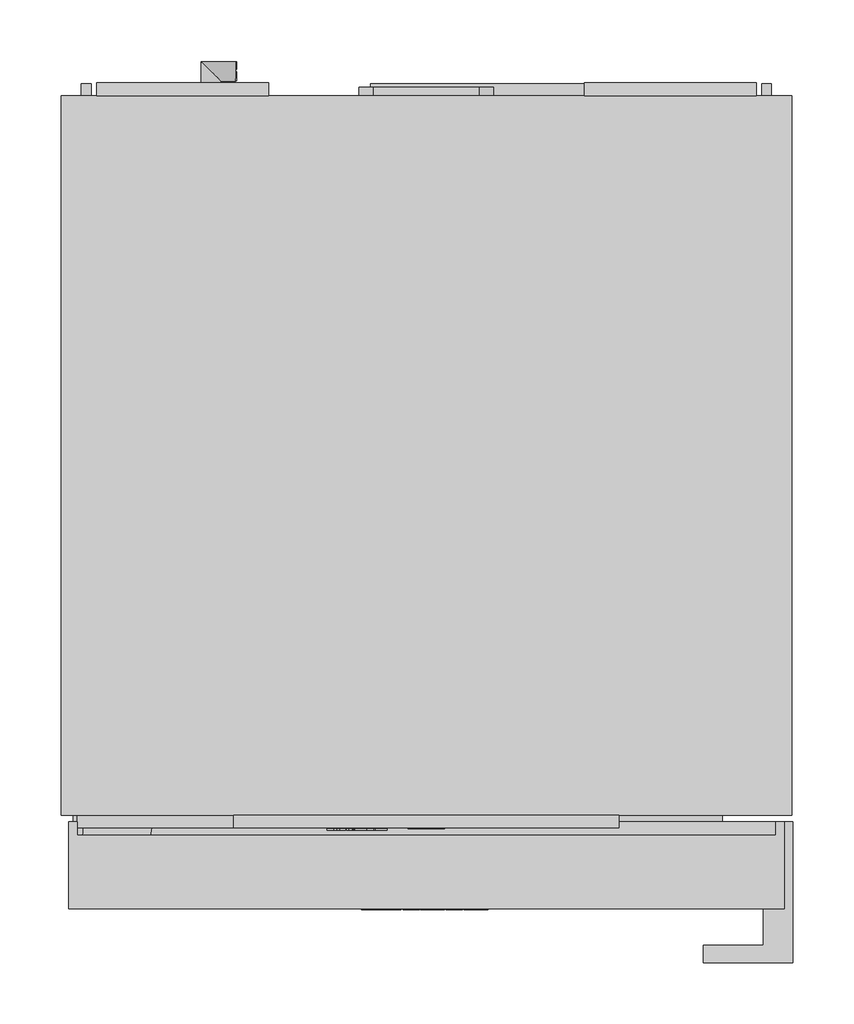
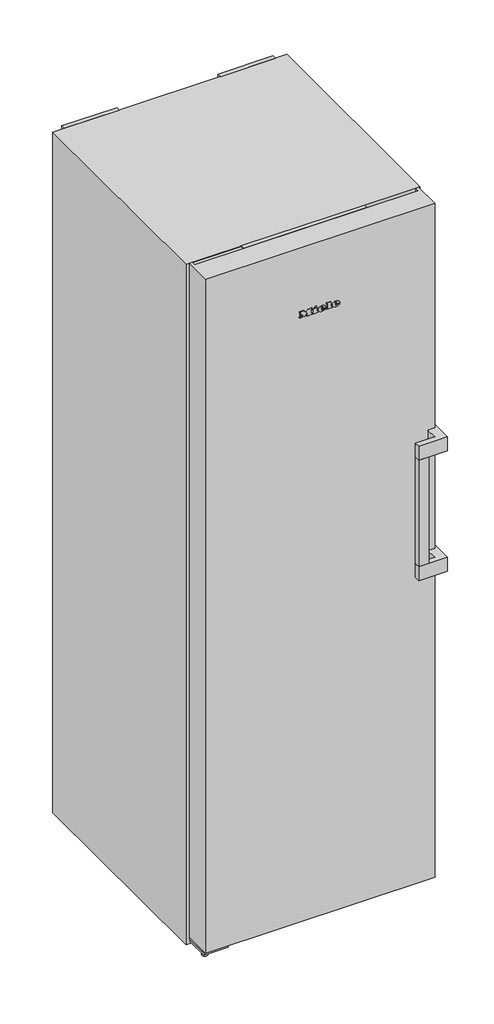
# Not in any storey: 1 proxy.
"""IFC4 building model written with IfcOpenShell, lengths in millimetres."""

from ifc_helpers import new_model, si_unit, origin, place, context, project, spatial, transform, mapped, element, save
from components import specialty_equipment_fcf0ee09

model = new_model("IFC4")

# Units and contexts
model_context = context("Model", 3, world=origin())
ifc_project = project(units=[si_unit("LENGTHUNIT", "METRE", prefix="MILLI")], contexts=[model_context])

# Site, building
site = spatial("IfcSite", under=ifc_project)
building = spatial("IfcBuilding", under=site)

# Proxy
placement = place(None, origin())
specialty_equipment_shape = specialty_equipment_fcf0ee09(model_context)
element("IfcBuildingElementProxy", 1, Name="11953190_EU1_FNS4782E_WS : 37478254_EU1_11953190_FNS4782E_WS", ObjectType="11953190_EU1_FNS4782E_WS : 37478254_EU1_11953190_FNS4782E_WS", at=placement, inside=building, context=model_context, shape_type="MappedRepresentation", body=[
    mapped(specialty_equipment_shape, transform((0.0, 0.0, 0.0), x_axis=(1.0, 0.0, 0.0), y_axis=(0.0, 1.0, 0.0), z_axis=(0.0, 0.0, 1.0))),
])

save(model, "model.ifc")
